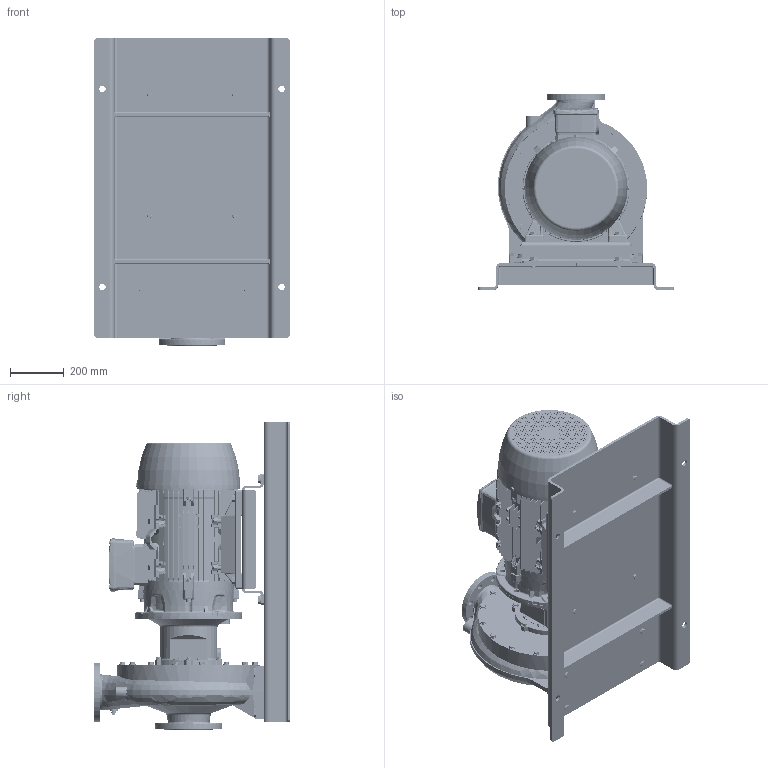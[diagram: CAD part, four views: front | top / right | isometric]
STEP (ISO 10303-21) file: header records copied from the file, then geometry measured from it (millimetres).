
FILE_DESCRIPTION (( 'STEP AP214' ), '1' );
FILE_NAME ('GSD4 100-400_30_(200ML)_W21_BP.STEP', '2026-05-08T05:08:02', ( '' ), ( '' ), 'SwSTEP 2.0', 'SolidWorks 2024', '' );
FILE_SCHEMA (( 'AUTOMOTIVE_DESIGN' ));
Length unit declared in the file: millimetre
Products named in the file (13): GSD4 100-400_30_(200ML)_W21_BP; Parametric bolt and washer_SFT-A359B; Parametric bolt and washer_SFT-A351B; Parametric Flat Washer_M16; Parametric Flat Washer_M20; Parametric bolt and washer_SFT-A403B; Parametric bolt_SFT-A359B; Parametric bolt_SFT-A403B; 100-400-200M_L_ﾃﾞﾌｫﾙﾄ; N9S4 GSDA-94B F1-1832970-00; Parametric bolt_SFT-A351B; CGS11-5273; 200M_L ALIE3_W21T_B35
Assembly tree (22 placements, depth 3):
  GSD4 100-400_30_(200ML)_W21_BP
    100-400-200M_L_ﾃﾞﾌｫﾙﾄ
    N9S4 GSDA-94B F1-1832970-00
    CGS11-5273
    Parametric bolt and washer_SFT-A403B  x4
      Parametric bolt_SFT-A403B
      Parametric Flat Washer_M20
    Parametric bolt and washer_SFT-A351B  x4
      Parametric bolt_SFT-A351B
      Parametric Flat Washer_M16
    Parametric bolt and washer_SFT-A359B  x4
      Parametric bolt_SFT-A359B
      Parametric Flat Washer_M16
    200M_L ALIE3_W21T_B35
Bounding box: 730 x 735 x 1150 mm (x, y, z)
Volume: 123488689.6 mm3; surface area: 7543890.9 mm2
Topology: 57 solids, 67 shells, 7660 faces, 19742 edges, 12694 vertices
Faces by surface type: plane 4435, cylinder 1455, bspline 933, cone 660, torus 177
Entity records: 286489 total; most frequent: CARTESIAN_POINT 124628, ORIENTED_EDGE 36020, DIRECTION 29267, EDGE_CURVE 18010, VERTEX_POINT 11623, LINE 11157, VECTOR 11157, AXIS2_PLACEMENT_3D 9055
